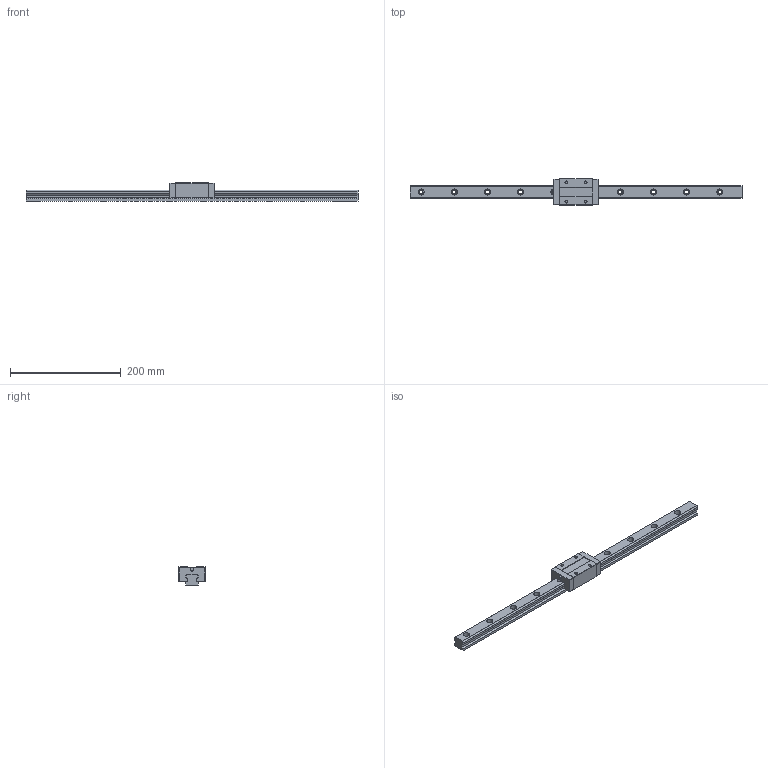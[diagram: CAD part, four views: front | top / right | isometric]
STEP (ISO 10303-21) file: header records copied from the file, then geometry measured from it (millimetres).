
FILE_DESCRIPTION (( 'STEP AP203' ), '1' );
FILE_NAME ('TRS25VN-XNC.STEP', '2024-08-16T07:19:49', ( '' ), ( '' ), 'SwSTEP 2.0', 'SolidWorks 2021', '' );
FILE_SCHEMA (( 'CONFIG_CONTROL_DESIGN' ));
Length unit declared in the file: millimetre
Products named in the file (1): TRS25VN-XNC
Bounding box: 600 x 48 x 33 mm (x, y, z)
Volume: 312753.3 mm3; surface area: 75845.1 mm2
Topology: 1 solids, 1 shells, 172 faces, 464 edges, 308 vertices
Faces by surface type: cylinder 88, plane 84
Entity records: 5575 total; most frequent: DIRECTION 988, CARTESIAN_POINT 945, ORIENTED_EDGE 928, EDGE_CURVE 464, AXIS2_PLACEMENT_3D 351, VERTEX_POINT 308, LINE 286, VECTOR 286
